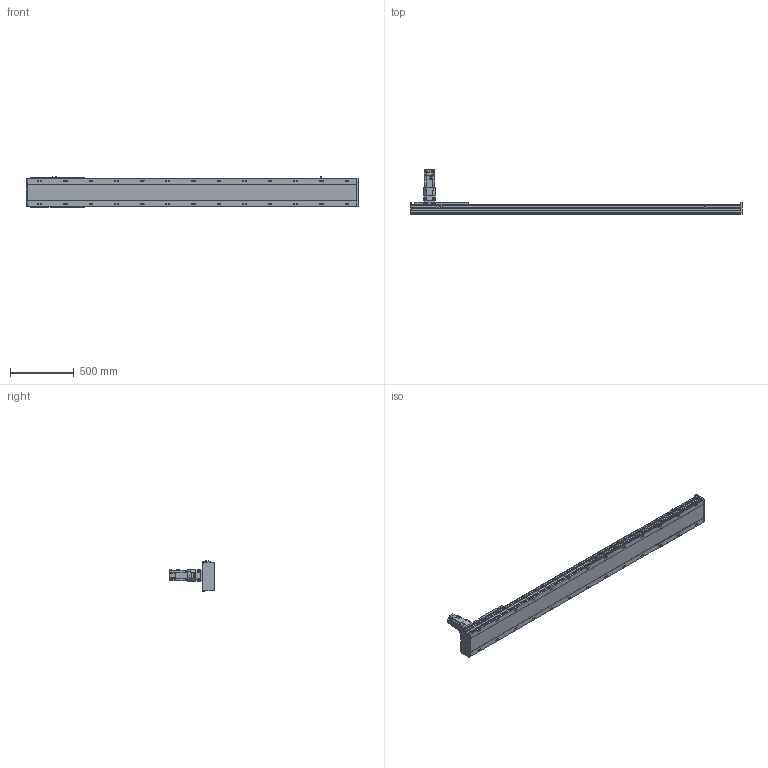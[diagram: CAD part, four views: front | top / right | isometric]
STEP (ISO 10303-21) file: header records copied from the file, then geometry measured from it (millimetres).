
FILE_DESCRIPTION(/* description */ ('STEP AP214'),/* implementation_level */ '2;1');
FILE_NAME(/* name */ 'SHS22A-L13-S2100-BC-T75-C1-N(0)',/* time_stamp */ '2022-06-15T02:27:09+02:00',/* author */ ('License CC BY-ND 4.0'),/* organization */ ('CADENAS'),/* preprocessor_version */ 'ST-DEVELOPER v18.102',/* originating_system */ 'PARTsolutions',/* authorisation */ ' ');
FILE_SCHEMA (('AUTOMOTIVE_DESIGN {1 0 10303 214 3 1 1}'));
Length unit declared in the file: millimetre
Products named in the file (7): SHS22A-L13-S2100-BC-T75-C1-N(0); PSC140-sensor; SHS22A-S2100_body2; T75-p1; SHS22A-S2100_body3; SHS22A-S2100_slider; SHS22A-L13-S2100-BC-T75-C1(0)_body
Assembly tree (13 placements, depth 2):
  SHS22A-L13-S2100-BC-T75-C1-N(0)
    PSC140-sensor  x3
    SHS22A-S2100_body2  x6
    T75-p1
    SHS22A-S2100_body3
    SHS22A-S2100_slider
    SHS22A-L13-S2100-BC-T75-C1(0)_body
Bounding box: 2594 x 350.8 x 238.4 mm (x, y, z)
Volume: 29255020.2 mm3; surface area: 3055050.3 mm2
Topology: 13 solids, 13 shells, 1857 faces, 4779 edges, 3130 vertices
Faces by surface type: plane 1332, cylinder 425, cone 91, torus 9
Full cylindrical faces by diameter (mm): 2.8 x3, 4.2 x2, 4.6 x3, 4.917 x4, 5 x4, 5.6 x24, 6 x31, 6.6 x24, 6.647 x8, 6.8 x9, 7.75 x6, 8 x3, 8.376 x26, 8.5 x26, 10 x4, 11 x4, 12 x24, 14 x26, 22 x1, 24.1 x1, 28 x1, 28.2 x1, 28.8 x1, 48.542 x1, 68 x1, 70 x1, 78 x1, 80 x2
Entity records: 30658 total; most frequent: CARTESIAN_POINT 5471, DIRECTION 5189, ORIENTED_EDGE 4728, EDGE_CURVE 2364, AXIS2_PLACEMENT_3D 1810, VERTEX_POINT 1694, FACE_BOUND 1578, EDGE_LOOP 1577
